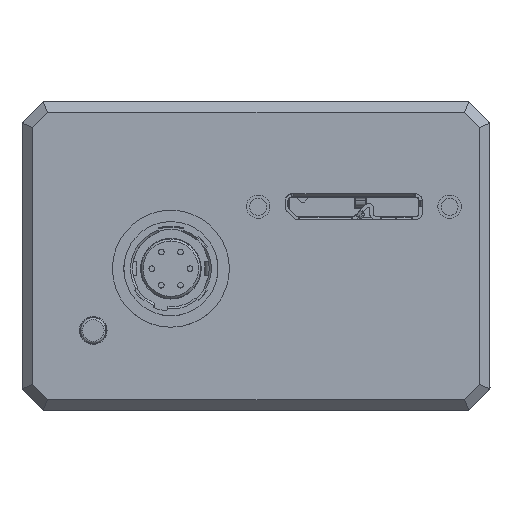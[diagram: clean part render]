
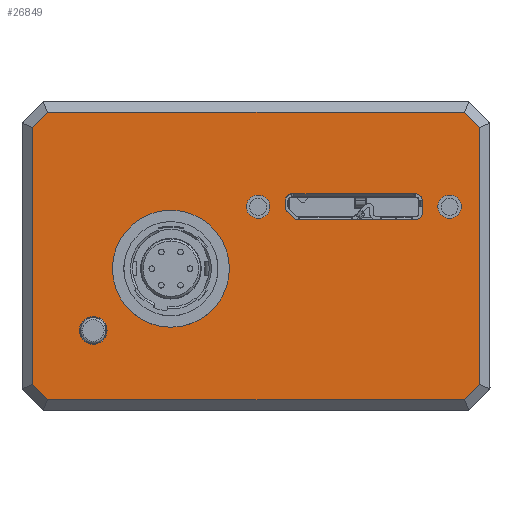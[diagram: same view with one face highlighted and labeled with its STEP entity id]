
A CAD part, top view. The second image highlights one B-rep face of the part: STEP entity #26849.
In plain terms, the highlighted planar face has unit normal (0, 0, 1).
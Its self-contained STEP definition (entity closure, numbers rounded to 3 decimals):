
#4265=DIRECTION('',(0.,1.,0.));
#4266=VECTOR('',#4265,24.172);
#4267=CARTESIAN_POINT('',(21.,-12.186,59.));
#4268=LINE('',#4267,#4266);
#4269=DIRECTION('',(-0.707,-0.707,0.));
#4270=VECTOR('',#4269,2.);
#4271=CARTESIAN_POINT('',(21.,-12.186,59.));
#4272=LINE('',#4271,#4270);
#4273=DIRECTION('',(-0.707,0.707,0.));
#4274=VECTOR('',#4273,2.);
#4275=CARTESIAN_POINT('',(-19.586,-13.6,59.));
#4276=LINE('',#4275,#4274);
#4277=DIRECTION('',(0.707,0.707,0.));
#4278=VECTOR('',#4277,2.);
#4279=CARTESIAN_POINT('',(-21.,11.986,59.));
#4280=LINE('',#4279,#4278);
#4281=DIRECTION('',(0.707,-0.707,0.));
#4282=VECTOR('',#4281,2.);
#4283=CARTESIAN_POINT('',(19.586,13.4,59.));
#4284=LINE('',#4283,#4282);
#4285=CARTESIAN_POINT('',(-15.3,-7.1,59.));
#4286=DIRECTION('',(0.,0.,1.));
#4287=DIRECTION('',(1.,0.,0.));
#4288=AXIS2_PLACEMENT_3D('',#4285,#4286,#4287);
#4290=CARTESIAN_POINT('',(-15.3,-7.1,59.));
#4291=DIRECTION('',(0.,0.,1.));
#4292=DIRECTION('',(-1.,0.,0.));
#4293=AXIS2_PLACEMENT_3D('',#4290,#4291,#4292);
#4295=CARTESIAN_POINT('',(15.025,5.15,59.));
#4296=DIRECTION('',(0.,0.,1.));
#4297=DIRECTION('',(1.,0.,0.));
#4298=AXIS2_PLACEMENT_3D('',#4295,#4296,#4297);
#4300=CARTESIAN_POINT('',(3.375,5.15,59.));
#4301=DIRECTION('',(0.,0.,1.));
#4302=DIRECTION('',(0.,1.,0.));
#4303=AXIS2_PLACEMENT_3D('',#4300,#4301,#4302);
#4305=CARTESIAN_POINT('',(3.375,4.474,59.));
#4306=DIRECTION('',(0.,0.,1.));
#4307=DIRECTION('',(-1.,0.,0.));
#4308=AXIS2_PLACEMENT_3D('',#4305,#4306,#4307);
#4310=DIRECTION('',(0.707,-0.707,0.));
#4311=VECTOR('',#4310,0.812);
#4312=CARTESIAN_POINT('',(2.951,4.05,59.));
#4313=LINE('',#4312,#4311);
#4314=CARTESIAN_POINT('',(3.949,3.9,59.));
#4315=DIRECTION('',(0.,0.,1.));
#4316=DIRECTION('',(-0.707,-0.707,0.));
#4317=AXIS2_PLACEMENT_3D('',#4314,#4315,#4316);
#4319=CARTESIAN_POINT('',(15.025,3.9,59.));
#4320=DIRECTION('',(0.,0.,1.));
#4321=DIRECTION('',(0.,-1.,0.));
#4322=AXIS2_PLACEMENT_3D('',#4319,#4320,#4321);
#4324=CARTESIAN_POINT('',(0.2,4.525,59.));
#4325=DIRECTION('',(0.,0.,1.));
#4326=DIRECTION('',(1.,0.,0.));
#4327=AXIS2_PLACEMENT_3D('',#4324,#4325,#4326);
#4329=CARTESIAN_POINT('',(0.2,4.525,59.));
#4330=DIRECTION('',(0.,0.,1.));
#4331=DIRECTION('',(-1.,0.,0.));
#4332=AXIS2_PLACEMENT_3D('',#4329,#4330,#4331);
#4334=CARTESIAN_POINT('',(18.2,4.525,59.));
#4335=DIRECTION('',(0.,0.,1.));
#4336=DIRECTION('',(1.,0.,0.));
#4337=AXIS2_PLACEMENT_3D('',#4334,#4335,#4336);
#4339=CARTESIAN_POINT('',(18.2,4.525,59.));
#4340=DIRECTION('',(0.,0.,1.));
#4341=DIRECTION('',(-1.,0.,0.));
#4342=AXIS2_PLACEMENT_3D('',#4339,#4340,#4341);
#4344=CARTESIAN_POINT('',(-8.,-1.3,59.));
#4345=DIRECTION('',(0.,0.,1.));
#4346=DIRECTION('',(1.,0.,0.));
#4347=AXIS2_PLACEMENT_3D('',#4344,#4345,#4346);
#4349=CARTESIAN_POINT('',(-8.,-1.3,59.));
#4350=DIRECTION('',(0.,0.,1.));
#4351=DIRECTION('',(-1.,0.,0.));
#4352=AXIS2_PLACEMENT_3D('',#4349,#4350,#4351);
#5908=DIRECTION('',(1.,0.,0.));
#5909=VECTOR('',#5908,39.172);
#5910=CARTESIAN_POINT('',(-19.586,-13.6,59.));
#5911=LINE('',#5910,#5909);
#5988=DIRECTION('',(0.,-1.,0.));
#5989=VECTOR('',#5988,24.172);
#5990=CARTESIAN_POINT('',(-21.,11.986,59.));
#5991=LINE('',#5990,#5989);
#6019=DIRECTION('',(-1.,0.,0.));
#6020=VECTOR('',#6019,39.172);
#6021=CARTESIAN_POINT('',(19.586,13.4,59.));
#6022=LINE('',#6021,#6020);
#6253=DIRECTION('',(0.,-1.,0.));
#6254=VECTOR('',#6253,1.25);
#6255=CARTESIAN_POINT('',(15.625,5.15,59.));
#6256=LINE('',#6255,#6254);
#6560=DIRECTION('',(-1.,0.,0.));
#6561=VECTOR('',#6560,11.076);
#6562=CARTESIAN_POINT('',(15.025,3.3,59.));
#6563=LINE('',#6562,#6561);
#7523=DIRECTION('',(0.,1.,0.));
#7524=VECTOR('',#7523,0.676);
#7525=CARTESIAN_POINT('',(2.775,4.474,59.));
#7526=LINE('',#7525,#7524);
#7794=DIRECTION('',(1.,0.,0.));
#7795=VECTOR('',#7794,11.65);
#7796=CARTESIAN_POINT('',(3.375,5.75,59.));
#7797=LINE('',#7796,#7795);
#16390=CARTESIAN_POINT('',(21.,-12.186,59.));
#16391=CARTESIAN_POINT('',(21.,11.986,59.));
#16392=VERTEX_POINT('',#16390);
#16393=VERTEX_POINT('',#16391);
#16394=CARTESIAN_POINT('',(19.586,-13.6,59.));
#16395=VERTEX_POINT('',#16394);
#16396=CARTESIAN_POINT('',(-19.586,-13.6,59.));
#16397=CARTESIAN_POINT('',(-21.,-12.186,59.));
#16398=VERTEX_POINT('',#16396);
#16399=VERTEX_POINT('',#16397);
#16400=CARTESIAN_POINT('',(-21.,11.986,59.));
#16401=CARTESIAN_POINT('',(-19.586,13.4,59.));
#16402=VERTEX_POINT('',#16400);
#16403=VERTEX_POINT('',#16401);
#16404=CARTESIAN_POINT('',(19.586,13.4,59.));
#16405=VERTEX_POINT('',#16404);
#16406=CARTESIAN_POINT('',(-14.,-7.1,59.));
#16407=CARTESIAN_POINT('',(-16.6,-7.1,59.));
#16408=VERTEX_POINT('',#16406);
#16409=VERTEX_POINT('',#16407);
#16410=CARTESIAN_POINT('',(15.625,5.15,59.));
#16411=CARTESIAN_POINT('',(15.025,5.75,59.));
#16412=VERTEX_POINT('',#16410);
#16413=VERTEX_POINT('',#16411);
#16414=CARTESIAN_POINT('',(3.375,5.75,59.));
#16415=VERTEX_POINT('',#16414);
#16416=CARTESIAN_POINT('',(2.775,5.15,59.));
#16417=VERTEX_POINT('',#16416);
#16418=CARTESIAN_POINT('',(2.775,4.474,59.));
#16419=VERTEX_POINT('',#16418);
#16420=CARTESIAN_POINT('',(2.951,4.05,59.));
#16421=VERTEX_POINT('',#16420);
#16422=CARTESIAN_POINT('',(3.525,3.476,59.));
#16423=VERTEX_POINT('',#16422);
#16424=CARTESIAN_POINT('',(3.949,3.3,59.));
#16425=VERTEX_POINT('',#16424);
#16426=CARTESIAN_POINT('',(15.025,3.3,59.));
#16427=VERTEX_POINT('',#16426);
#16428=CARTESIAN_POINT('',(15.625,3.9,59.));
#16429=VERTEX_POINT('',#16428);
#16430=CARTESIAN_POINT('',(1.3,4.525,59.));
#16431=CARTESIAN_POINT('',(-0.9,4.525,59.));
#16432=VERTEX_POINT('',#16430);
#16433=VERTEX_POINT('',#16431);
#16434=CARTESIAN_POINT('',(19.3,4.525,59.));
#16435=CARTESIAN_POINT('',(17.1,4.525,59.));
#16436=VERTEX_POINT('',#16434);
#16437=VERTEX_POINT('',#16435);
#19295=CARTESIAN_POINT('',(-2.5,-1.3,59.));
#19296=CARTESIAN_POINT('',(-13.5,-1.3,59.));
#19297=VERTEX_POINT('',#19295);
#19298=VERTEX_POINT('',#19296);
#26781=CARTESIAN_POINT('',(0.,-0.1,59.));
#26782=DIRECTION('',(0.,0.,1.));
#26783=DIRECTION('',(1.,0.,0.));
#26784=AXIS2_PLACEMENT_3D('',#26781,#26782,#26783);
#26785=PLANE('',#26784);
#26786=ORIENTED_EDGE('',*,*,#26768,.F.);
#26788=ORIENTED_EDGE('',*,*,#26787,.T.);
#26790=ORIENTED_EDGE('',*,*,#26789,.F.);
#26792=ORIENTED_EDGE('',*,*,#26791,.T.);
#26794=ORIENTED_EDGE('',*,*,#26793,.F.);
#26796=ORIENTED_EDGE('',*,*,#26795,.T.);
#26798=ORIENTED_EDGE('',*,*,#26797,.F.);
#26800=ORIENTED_EDGE('',*,*,#26799,.T.);
#26801=EDGE_LOOP('',(#26786,#26788,#26790,#26792,#26794,#26796,#26798,#26800));
#26802=FACE_OUTER_BOUND('',#26801,.F.);
#26804=ORIENTED_EDGE('',*,*,#26803,.T.);
#26806=ORIENTED_EDGE('',*,*,#26805,.T.);
#26807=EDGE_LOOP('',(#26804,#26806));
#26808=FACE_BOUND('',#26807,.F.);
#26810=ORIENTED_EDGE('',*,*,#26809,.T.);
#26812=ORIENTED_EDGE('',*,*,#26811,.F.);
#26814=ORIENTED_EDGE('',*,*,#26813,.T.);
#26816=ORIENTED_EDGE('',*,*,#26815,.F.);
#26818=ORIENTED_EDGE('',*,*,#26817,.T.);
#26820=ORIENTED_EDGE('',*,*,#26819,.T.);
#26822=ORIENTED_EDGE('',*,*,#26821,.T.);
#26824=ORIENTED_EDGE('',*,*,#26823,.F.);
#26826=ORIENTED_EDGE('',*,*,#26825,.T.);
#26828=ORIENTED_EDGE('',*,*,#26827,.F.);
#26829=EDGE_LOOP('',(#26810,#26812,#26814,#26816,#26818,#26820,#26822,#26824,
#26826,#26828));
#26830=FACE_BOUND('',#26829,.F.);
#26832=ORIENTED_EDGE('',*,*,#26831,.T.);
#26834=ORIENTED_EDGE('',*,*,#26833,.T.);
#26835=EDGE_LOOP('',(#26832,#26834));
#26836=FACE_BOUND('',#26835,.F.);
#26838=ORIENTED_EDGE('',*,*,#26837,.T.);
#26840=ORIENTED_EDGE('',*,*,#26839,.T.);
#26841=EDGE_LOOP('',(#26838,#26840));
#26842=FACE_BOUND('',#26841,.F.);
#26844=ORIENTED_EDGE('',*,*,#26843,.T.);
#26846=ORIENTED_EDGE('',*,*,#26845,.T.);
#26847=EDGE_LOOP('',(#26844,#26846));
#26848=FACE_BOUND('',#26847,.F.);
#26849=ADVANCED_FACE('',(#26802,#26808,#26830,#26836,#26842,#26848),#26785,.T.);
#4289=CIRCLE('',#4288,1.3);
#4294=CIRCLE('',#4293,1.3);
#4299=CIRCLE('',#4298,0.6);
#4304=CIRCLE('',#4303,0.6);
#4309=CIRCLE('',#4308,0.6);
#4318=CIRCLE('',#4317,0.6);
#4323=CIRCLE('',#4322,0.6);
#4328=CIRCLE('',#4327,1.1);
#4333=CIRCLE('',#4332,1.1);
#4338=CIRCLE('',#4337,1.1);
#4343=CIRCLE('',#4342,1.1);
#4348=CIRCLE('',#4347,5.5);
#4353=CIRCLE('',#4352,5.5);
#26768=EDGE_CURVE('',#16392,#16393,#4268,.T.);
#26787=EDGE_CURVE('',#16392,#16395,#4272,.T.);
#26789=EDGE_CURVE('',#16398,#16395,#5911,.T.);
#26791=EDGE_CURVE('',#16398,#16399,#4276,.T.);
#26793=EDGE_CURVE('',#16402,#16399,#5991,.T.);
#26795=EDGE_CURVE('',#16402,#16403,#4280,.T.);
#26797=EDGE_CURVE('',#16405,#16403,#6022,.T.);
#26799=EDGE_CURVE('',#16405,#16393,#4284,.T.);
#26803=EDGE_CURVE('',#16408,#16409,#4289,.T.);
#26805=EDGE_CURVE('',#16409,#16408,#4294,.T.);
#26809=EDGE_CURVE('',#16412,#16413,#4299,.T.);
#26811=EDGE_CURVE('',#16415,#16413,#7797,.T.);
#26813=EDGE_CURVE('',#16415,#16417,#4304,.T.);
#26815=EDGE_CURVE('',#16419,#16417,#7526,.T.);
#26817=EDGE_CURVE('',#16419,#16421,#4309,.T.);
#26819=EDGE_CURVE('',#16421,#16423,#4313,.T.);
#26821=EDGE_CURVE('',#16423,#16425,#4318,.T.);
#26823=EDGE_CURVE('',#16427,#16425,#6563,.T.);
#26825=EDGE_CURVE('',#16427,#16429,#4323,.T.);
#26827=EDGE_CURVE('',#16412,#16429,#6256,.T.);
#26831=EDGE_CURVE('',#16432,#16433,#4328,.T.);
#26833=EDGE_CURVE('',#16433,#16432,#4333,.T.);
#26837=EDGE_CURVE('',#16436,#16437,#4338,.T.);
#26839=EDGE_CURVE('',#16437,#16436,#4343,.T.);
#26843=EDGE_CURVE('',#19297,#19298,#4348,.T.);
#26845=EDGE_CURVE('',#19298,#19297,#4353,.T.);
